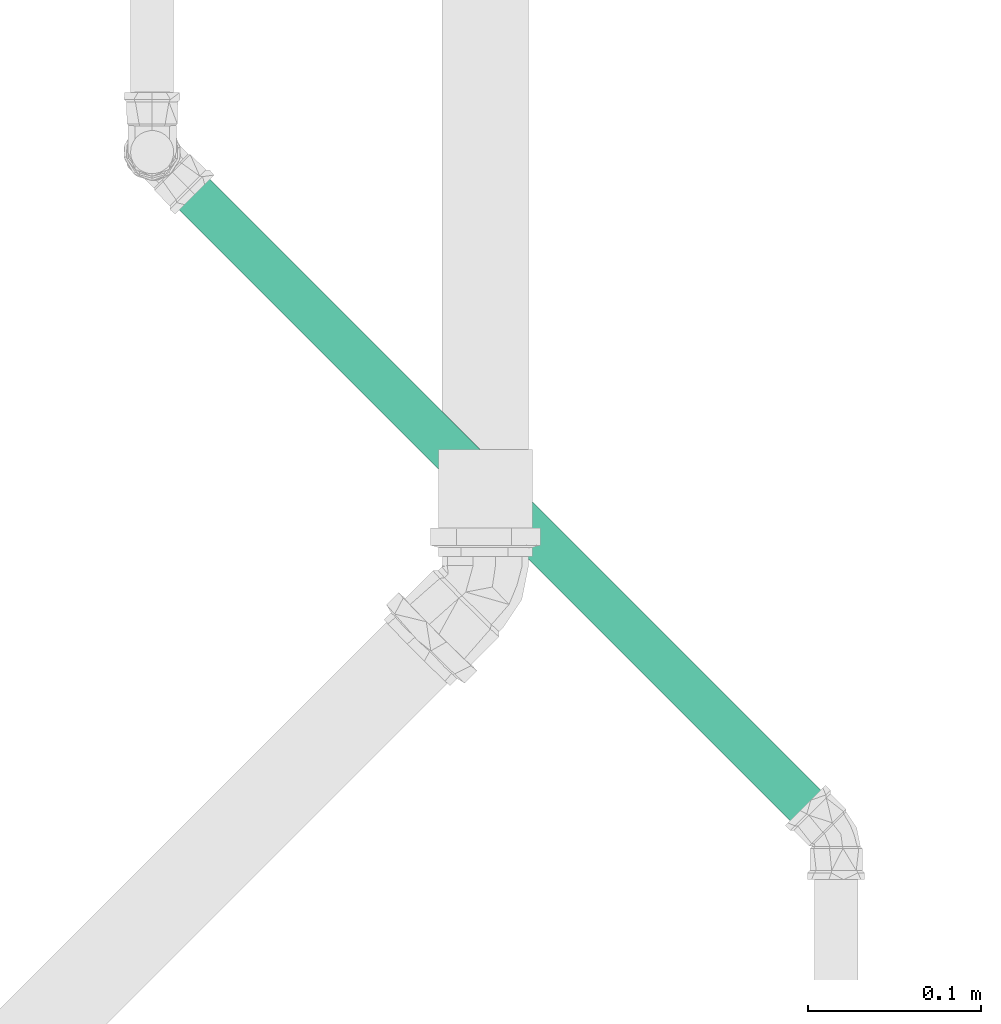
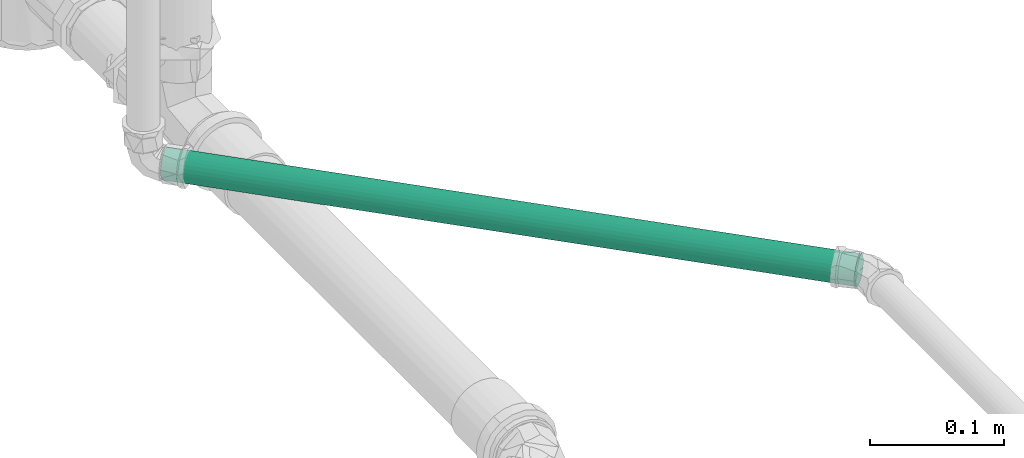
# One storey, part 173 of 589: 1 flow segment.
"""IFC2X3 building model written with IfcOpenShell, lengths in millimetres."""

from ifc_helpers import new_model, entity, si_unit, converted_unit, derived_unit, direction, frame, frame_2d, origin, place, context, subcontext, project, spatial, circle, extrude, type_object, element, save


model = new_model("IFC2X3")

# Units and contexts
model_context = context("Model", 3, precision=0.01, world=origin(), true_north=direction((6.123031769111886e-17, 1.0)))
body_context = subcontext(model_context, "Body", "Model", "MODEL_VIEW")
ifc_project = project(units=[si_unit("LENGTHUNIT", "METRE", prefix="MILLI"), si_unit("AREAUNIT", "SQUARE_METRE"), si_unit("VOLUMEUNIT", "CUBIC_METRE"), converted_unit("PLANEANGLEUNIT", "DEGREE", entity("IfcRatioMeasure", 0.017453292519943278), si_unit("PLANEANGLEUNIT", "RADIAN"), dimensions=[0, 0, 0, 0, 0, 0, 0]), si_unit("MASSUNIT", "GRAM", prefix="KILO"), derived_unit("MASSDENSITYUNIT", [(si_unit("MASSUNIT", "GRAM", prefix="KILO"), 1), (si_unit("LENGTHUNIT", "METRE"), -3)]), derived_unit("IONCONCENTRATIONUNIT", [(si_unit("MASSUNIT", "GRAM", prefix="KILO"), 1), (si_unit("LENGTHUNIT", "METRE"), -3)]), derived_unit("MOMENTOFINERTIAUNIT", [(si_unit("LENGTHUNIT", "METRE"), 4)]), si_unit("TIMEUNIT", "SECOND"), si_unit("FREQUENCYUNIT", "HERTZ"), si_unit("THERMODYNAMICTEMPERATUREUNIT", "DEGREE_CELSIUS"), derived_unit("THERMALTRANSMITTANCEUNIT", [(si_unit("MASSUNIT", "GRAM", prefix="KILO"), 1), (si_unit("THERMODYNAMICTEMPERATUREUNIT", "KELVIN"), -1), (si_unit("TIMEUNIT", "SECOND"), -3)]), derived_unit("THERMALCONDUCTANCEUNIT", [(si_unit("MASSUNIT", "GRAM", prefix="KILO"), 1), (si_unit("THERMODYNAMICTEMPERATUREUNIT", "KELVIN"), -1), (si_unit("TIMEUNIT", "SECOND"), -3), (si_unit("LENGTHUNIT", "METRE"), 1)]), derived_unit("VOLUMETRICFLOWRATEUNIT", [(si_unit("LENGTHUNIT", "METRE"), 3), (si_unit("TIMEUNIT", "SECOND"), -1)]), derived_unit("MASSFLOWRATEUNIT", [(si_unit("MASSUNIT", "GRAM", prefix="KILO"), 1), (si_unit("TIMEUNIT", "SECOND"), -1)]), derived_unit("ROTATIONALFREQUENCYUNIT", [(si_unit("TIMEUNIT", "SECOND"), -1)]), si_unit("ELECTRICCURRENTUNIT", "AMPERE"), si_unit("ELECTRICVOLTAGEUNIT", "VOLT"), si_unit("POWERUNIT", "WATT"), si_unit("FORCEUNIT", "NEWTON", prefix="KILO"), si_unit("ILLUMINANCEUNIT", "LUX"), si_unit("LUMINOUSFLUXUNIT", "LUMEN"), si_unit("LUMINOUSINTENSITYUNIT", "CANDELA"), derived_unit("USERDEFINED", [(si_unit("MASSUNIT", "GRAM", prefix="KILO"), -1), (si_unit("LENGTHUNIT", "METRE"), -2), (si_unit("TIMEUNIT", "SECOND"), 3), (si_unit("LUMINOUSFLUXUNIT", "LUMEN"), 1)]), derived_unit("USERDEFINED", [(si_unit("MASSUNIT", "GRAM", prefix="KILO"), 1), (si_unit("TIMEUNIT", "SECOND"), -3), (si_unit("LENGTHUNIT", "METRE"), 3), (si_unit("ELECTRICCURRENTUNIT", "AMPERE"), -2)]), derived_unit("SOUNDPOWERUNIT", [(si_unit("MASSUNIT", "GRAM", prefix="KILO"), 1), (si_unit("TIMEUNIT", "SECOND"), -3), (si_unit("LENGTHUNIT", "METRE"), 2)]), derived_unit("SOUNDPRESSUREUNIT", [(si_unit("MASSUNIT", "GRAM", prefix="KILO"), 1), (si_unit("LENGTHUNIT", "METRE"), -1), (si_unit("TIMEUNIT", "SECOND"), -2)]), derived_unit("LINEARVELOCITYUNIT", [(si_unit("LENGTHUNIT", "METRE"), 1), (si_unit("TIMEUNIT", "SECOND"), -1)]), si_unit("PRESSUREUNIT", "PASCAL"), derived_unit("USERDEFINED", [(si_unit("MASSUNIT", "GRAM", prefix="KILO"), 1), (si_unit("LENGTHUNIT", "METRE"), -2), (si_unit("TIMEUNIT", "SECOND"), -2)]), derived_unit("LINEARFORCEUNIT", [(si_unit("MASSUNIT", "GRAM", prefix="KILO"), 1), (si_unit("TIMEUNIT", "SECOND"), -2)]), derived_unit("PLANARFORCEUNIT", [(si_unit("MASSUNIT", "GRAM", prefix="KILO"), 1), (si_unit("LENGTHUNIT", "METRE"), -1), (si_unit("TIMEUNIT", "SECOND"), -2)]), derived_unit("SPECIFICHEATCAPACITYUNIT", [(si_unit("THERMODYNAMICTEMPERATUREUNIT", "KELVIN"), -1), (si_unit("LENGTHUNIT", "METRE"), 2), (si_unit("TIMEUNIT", "SECOND"), -2)]), derived_unit("HEATINGVALUEUNIT", [(si_unit("LENGTHUNIT", "METRE"), 2), (si_unit("TIMEUNIT", "SECOND"), -2)]), derived_unit("VAPORPERMEABILITYUNIT", [(si_unit("LENGTHUNIT", "METRE"), -1), (si_unit("TIMEUNIT", "SECOND"), 1)]), derived_unit("DYNAMICVISCOSITYUNIT", [(si_unit("MASSUNIT", "GRAM", prefix="KILO"), 1), (si_unit("TIMEUNIT", "SECOND"), -1), (si_unit("LENGTHUNIT", "METRE"), -1)]), derived_unit("THERMALEXPANSIONCOEFFICIENTUNIT", [(si_unit("THERMODYNAMICTEMPERATUREUNIT", "KELVIN"), -1)]), derived_unit("MODULUSOFELASTICITYUNIT", [(si_unit("MASSUNIT", "GRAM", prefix="KILO"), 1), (si_unit("LENGTHUNIT", "METRE"), -1), (si_unit("TIMEUNIT", "SECOND"), -2)]), derived_unit("ISOTHERMALMOISTURECAPACITYUNIT", [(si_unit("LENGTHUNIT", "METRE"), 3), (si_unit("MASSUNIT", "GRAM", prefix="KILO"), -1)]), derived_unit("MOISTUREDIFFUSIVITYUNIT", [(si_unit("TIMEUNIT", "SECOND"), -1), (si_unit("LENGTHUNIT", "METRE"), 2)])], contexts=[model_context])

# Site, building, storey
site_placement = place(None, origin())
site = spatial("IfcSite", under=ifc_project, at=site_placement, Name="Default", CompositionType="ELEMENT")
building_placement = place(site_placement, origin())
building = spatial("IfcBuilding", under=site, at=building_placement, CompositionType="ELEMENT")
storey_placement = place(building_placement, frame((0.0, 0.0, 100.0)))
storey = spatial("IfcBuildingStorey", under=building, at=storey_placement, Name="TÉRREO", CompositionType="ELEMENT", Elevation=100.0)

# Flow segment
pipe_segment_type = type_object("IfcPipeSegmentType", Name="Tipos de tubos:PVC Marrom Soldável", PredefinedType="NOTDEFINED")
flow_segment_placement = place(storey_placement, origin())
element("IfcFlowSegment", 1, at=flow_segment_placement, inside=storey, type_object=pipe_segment_type, Name="Tipos de tubos:PVC Marrom Soldável", ObjectType="Tipos de tubos:PVC Marrom Soldável", context=body_context, shape_type="SweptSolid", body=[
    extrude(circle(Radius=12.5, at=frame_2d((2.963865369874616e-24, -1.6919798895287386e-14), x_axis=(1.0, 0.0))), frame((11863.786011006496, -6959.917835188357, -37.356980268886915), z_axis=(0.707106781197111, -0.707106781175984, 0.0), x_axis=(-0.707106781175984, -0.707106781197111, 0.0)), (0.0, 0.0, 1.0), 536.3353397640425),
])

save(model, "model.ifc")
